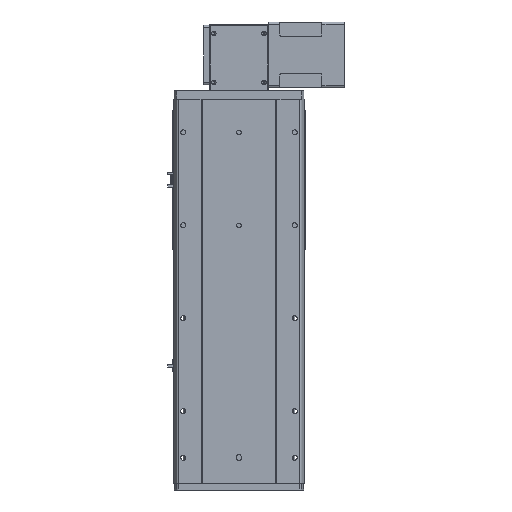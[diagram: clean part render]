
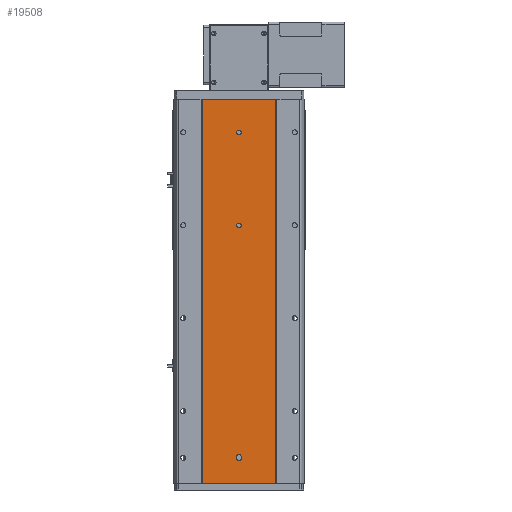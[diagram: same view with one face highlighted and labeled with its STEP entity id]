
A CAD part, front view. The second image highlights one B-rep face of the part: STEP entity #19508.
In plain terms, the highlighted planar face has unit normal (0, -1, 0).
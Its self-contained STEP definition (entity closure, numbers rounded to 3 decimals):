
#303 = FACE_BOUND ( 'NONE', #558, .T. ) ;
#558 = EDGE_LOOP ( 'NONE', ( #22276, #22005, #2982, #13270, #3893 ) ) ;
#575 = ORIENTED_EDGE ( 'NONE', *, *, #8331, .T. ) ;
#696 = DIRECTION ( 'NONE',  ( 1., 0., 0. ) ) ;
#1008 = VERTEX_POINT ( 'NONE', #23048 ) ;
#1185 = CARTESIAN_POINT ( 'NONE',  ( 0., 1.5, -770. ) ) ;
#1388 = DIRECTION ( 'NONE',  ( 0., 1., 0. ) ) ;
#1759 = FACE_BOUND ( 'NONE', #5807, .T. ) ;
#1795 = EDGE_CURVE ( 'NONE', #17979, #8324, #4296, .T. ) ;
#2345 = AXIS2_PLACEMENT_3D ( 'NONE', #3708, #10650, #17162 ) ;
#2351 = DIRECTION ( 'NONE',  ( 0., 1., 0. ) ) ;
#2898 = CARTESIAN_POINT ( 'NONE',  ( 0., 1.5, -271.5 ) ) ;
#2933 = AXIS2_PLACEMENT_3D ( 'NONE', #2898, #23664, #25944 ) ;
#2979 = LINE ( 'NONE', #21437, #16445 ) ;
#2982 = ORIENTED_EDGE ( 'NONE', *, *, #1795, .T. ) ;
#3521 = CIRCLE ( 'NONE', #16255, 5. ) ;
#3708 = CARTESIAN_POINT ( 'NONE',  ( 0., 1.5, -71.5 ) ) ;
#3893 = ORIENTED_EDGE ( 'NONE', *, *, #19315, .T. ) ;
#4296 = LINE ( 'NONE', #6138, #24548 ) ;
#4425 = CIRCLE ( 'NONE', #28604, 5. ) ;
#4523 = DIRECTION ( 'NONE',  ( 1., 0., 0. ) ) ;
#4783 = CARTESIAN_POINT ( 'NONE',  ( 0., 1.5, -773. ) ) ;
#4958 = LINE ( 'NONE', #23794, #11679 ) ;
#5250 = DIRECTION ( 'NONE',  ( 1., 0., 0. ) ) ;
#5529 = CIRCLE ( 'NONE', #19438, 5. ) ;
#5715 = ORIENTED_EDGE ( 'NONE', *, *, #25325, .T. ) ;
#5785 = EDGE_CURVE ( 'NONE', #25053, #12590, #8337, .T. ) ;
#5807 = EDGE_LOOP ( 'NONE', ( #7769, #23242 ) ) ;
#5866 = EDGE_LOOP ( 'NONE', ( #575, #5715 ) ) ;
#6003 = EDGE_CURVE ( 'NONE', #28669, #6213, #4425, .T. ) ;
#6138 = CARTESIAN_POINT ( 'NONE',  ( 5., 1.5, -827. ) ) ;
#6213 = VERTEX_POINT ( 'NONE', #13999 ) ;
#6276 = CARTESIAN_POINT ( 'NONE',  ( -79., 1.5, 0. ) ) ;
#7407 = AXIS2_PLACEMENT_3D ( 'NONE', #25067, #28052, #18955 ) ;
#7541 = CARTESIAN_POINT ( 'NONE',  ( 79., 1.5, -827. ) ) ;
#7769 = ORIENTED_EDGE ( 'NONE', *, *, #16353, .T. ) ;
#7804 = VERTEX_POINT ( 'NONE', #18995 ) ;
#8324 = VERTEX_POINT ( 'NONE', #27861 ) ;
#8331 = EDGE_CURVE ( 'NONE', #20072, #1008, #14523, .T. ) ;
#8337 = LINE ( 'NONE', #22278, #13648 ) ;
#8575 = LINE ( 'NONE', #14864, #29556 ) ;
#9265 = FACE_BOUND ( 'NONE', #5866, .T. ) ;
#9630 = DIRECTION ( 'NONE',  ( 0., 1., 0. ) ) ;
#10236 = ORIENTED_EDGE ( 'NONE', *, *, #25142, .F. ) ;
#10650 = DIRECTION ( 'NONE',  ( 0., 1., 0. ) ) ;
#10782 = EDGE_CURVE ( 'NONE', #8324, #14637, #19972, .T. ) ;
#11425 = EDGE_LOOP ( 'NONE', ( #10236, #22938, #13476, #28258 ) ) ;
#11679 = VECTOR ( 'NONE', #696, 1000. ) ;
#12103 = FACE_OUTER_BOUND ( 'NONE', #11425, .T. ) ;
#12590 = VERTEX_POINT ( 'NONE', #20220 ) ;
#13270 = ORIENTED_EDGE ( 'NONE', *, *, #10782, .T. ) ;
#13476 = ORIENTED_EDGE ( 'NONE', *, *, #25617, .T. ) ;
#13648 = VECTOR ( 'NONE', #24471, 1000. ) ;
#13689 = CARTESIAN_POINT ( 'NONE',  ( 0., 1.5, -271.5 ) ) ;
#13999 = CARTESIAN_POINT ( 'NONE',  ( 0., 1.5, -76.5 ) ) ;
#14217 = EDGE_CURVE ( 'NONE', #17398, #22966, #2979, .T. ) ;
#14264 = CARTESIAN_POINT ( 'NONE',  ( 5., 1.5, -770. ) ) ;
#14523 = CIRCLE ( 'NONE', #2933, 5. ) ;
#14637 = VERTEX_POINT ( 'NONE', #18906 ) ;
#14720 = CIRCLE ( 'NONE', #2345, 5. ) ;
#14786 = DIRECTION ( 'NONE',  ( 0., 0., 1. ) ) ;
#14864 = CARTESIAN_POINT ( 'NONE',  ( -79., 1.5, 0. ) ) ;
#15168 = AXIS2_PLACEMENT_3D ( 'NONE', #29164, #22477, #4523 ) ;
#15173 = CIRCLE ( 'NONE', #15168, 5. ) ;
#15814 = DIRECTION ( 'NONE',  ( 1., 0., 0. ) ) ;
#16255 = AXIS2_PLACEMENT_3D ( 'NONE', #13689, #29303, #15814 ) ;
#16263 = PLANE ( 'NONE',  #7407 ) ;
#16353 = EDGE_CURVE ( 'NONE', #6213, #28669, #14720, .T. ) ;
#16445 = VECTOR ( 'NONE', #14786, 1000. ) ;
#17162 = DIRECTION ( 'NONE',  ( 1., 0., 0. ) ) ;
#17398 = VERTEX_POINT ( 'NONE', #18727 ) ;
#17979 = VERTEX_POINT ( 'NONE', #14264 ) ;
#18717 = CARTESIAN_POINT ( 'NONE',  ( -5., 1.5, -773. ) ) ;
#18727 = CARTESIAN_POINT ( 'NONE',  ( -79., 1.5, -827. ) ) ;
#18761 = VERTEX_POINT ( 'NONE', #7541 ) ;
#18906 = CARTESIAN_POINT ( 'NONE',  ( 0., 1.5, -778. ) ) ;
#18955 = DIRECTION ( 'NONE',  ( 1., 0., 0. ) ) ;
#18995 = CARTESIAN_POINT ( 'NONE',  ( 79., 1.5, 0. ) ) ;
#19315 = EDGE_CURVE ( 'NONE', #14637, #25053, #15173, .T. ) ;
#19380 = CARTESIAN_POINT ( 'NONE',  ( 0., 1.5, -66.5 ) ) ;
#19438 = AXIS2_PLACEMENT_3D ( 'NONE', #1185, #1388, #23868 ) ;
#19508 = ADVANCED_FACE ( 'NONE', ( #1759, #12103, #9265, #303 ), #16263, .T. ) ;
#19604 = DIRECTION ( 'NONE',  ( 0., 0., -1. ) ) ;
#19972 = CIRCLE ( 'NONE', #20616, 5. ) ;
#20072 = VERTEX_POINT ( 'NONE', #25216 ) ;
#20220 = CARTESIAN_POINT ( 'NONE',  ( -5., 1.5, -770. ) ) ;
#20616 = AXIS2_PLACEMENT_3D ( 'NONE', #4783, #9630, #27615 ) ;
#21437 = CARTESIAN_POINT ( 'NONE',  ( -79., 1.5, -827. ) ) ;
#21448 = VECTOR ( 'NONE', #28690, 1000. ) ;
#22005 = ORIENTED_EDGE ( 'NONE', *, *, #22928, .T. ) ;
#22276 = ORIENTED_EDGE ( 'NONE', *, *, #5785, .T. ) ;
#22278 = CARTESIAN_POINT ( 'NONE',  ( -5., 1.5, -827. ) ) ;
#22477 = DIRECTION ( 'NONE',  ( 0., 1., 0. ) ) ;
#22851 = CARTESIAN_POINT ( 'NONE',  ( 0., 1.5, -71.5 ) ) ;
#22928 = EDGE_CURVE ( 'NONE', #12590, #17979, #5529, .T. ) ;
#22938 = ORIENTED_EDGE ( 'NONE', *, *, #14217, .F. ) ;
#22966 = VERTEX_POINT ( 'NONE', #6276 ) ;
#23048 = CARTESIAN_POINT ( 'NONE',  ( 0., 1.5, -266.5 ) ) ;
#23242 = ORIENTED_EDGE ( 'NONE', *, *, #6003, .T. ) ;
#23664 = DIRECTION ( 'NONE',  ( 0., 1., 0. ) ) ;
#23794 = CARTESIAN_POINT ( 'NONE',  ( -79., 1.5, -827. ) ) ;
#23868 = DIRECTION ( 'NONE',  ( 1., 0., 0. ) ) ;
#24109 = EDGE_CURVE ( 'NONE', #18761, #7804, #27527, .T. ) ;
#24471 = DIRECTION ( 'NONE',  ( 0., 0., 1. ) ) ;
#24548 = VECTOR ( 'NONE', #19604, 1000. ) ;
#25053 = VERTEX_POINT ( 'NONE', #18717 ) ;
#25067 = CARTESIAN_POINT ( 'NONE',  ( -79., 1.5, -827. ) ) ;
#25142 = EDGE_CURVE ( 'NONE', #22966, #7804, #8575, .T. ) ;
#25216 = CARTESIAN_POINT ( 'NONE',  ( 0., 1.5, -276.5 ) ) ;
#25325 = EDGE_CURVE ( 'NONE', #1008, #20072, #3521, .T. ) ;
#25617 = EDGE_CURVE ( 'NONE', #17398, #18761, #4958, .T. ) ;
#25944 = DIRECTION ( 'NONE',  ( 1., 0., 0. ) ) ;
#26276 = CARTESIAN_POINT ( 'NONE',  ( 79., 1.5, -827. ) ) ;
#27029 = DIRECTION ( 'NONE',  ( 1., 0., 0. ) ) ;
#27527 = LINE ( 'NONE', #26276, #21448 ) ;
#27615 = DIRECTION ( 'NONE',  ( 1., 0., 0. ) ) ;
#27861 = CARTESIAN_POINT ( 'NONE',  ( 5., 1.5, -773. ) ) ;
#28052 = DIRECTION ( 'NONE',  ( 0., -1., 0. ) ) ;
#28258 = ORIENTED_EDGE ( 'NONE', *, *, #24109, .T. ) ;
#28604 = AXIS2_PLACEMENT_3D ( 'NONE', #22851, #2351, #27029 ) ;
#28669 = VERTEX_POINT ( 'NONE', #19380 ) ;
#28690 = DIRECTION ( 'NONE',  ( 0., 0., 1. ) ) ;
#29164 = CARTESIAN_POINT ( 'NONE',  ( 0., 1.5, -773. ) ) ;
#29303 = DIRECTION ( 'NONE',  ( 0., 1., 0. ) ) ;
#29556 = VECTOR ( 'NONE', #5250, 1000. ) ;
